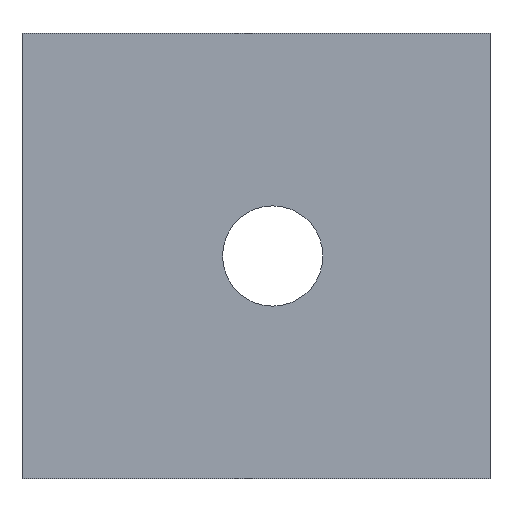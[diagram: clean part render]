
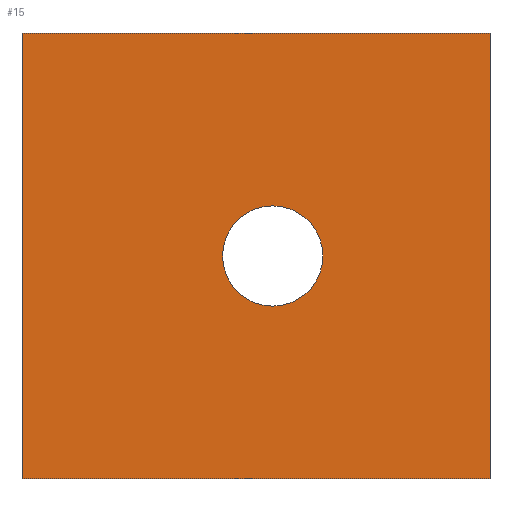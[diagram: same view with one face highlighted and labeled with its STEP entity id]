
A CAD part, front view. The second image highlights one B-rep face of the part: STEP entity #15.
In plain terms, the highlighted planar face has unit normal (0, -1, 0).
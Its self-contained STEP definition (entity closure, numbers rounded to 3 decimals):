
#15 = ADVANCED_FACE ( 'NONE', ( #372, #148 ), #526, .F. ) ;
#37 = DIRECTION ( 'NONE',  ( 0., 0., -1. ) ) ;
#50 = EDGE_LOOP ( 'NONE', ( #203, #580, #567, #287 ) ) ;
#76 = EDGE_CURVE ( 'NONE', #470, #146, #142, .T. ) ;
#81 = CARTESIAN_POINT ( 'NONE',  ( 0., 0., 20. ) ) ;
#97 = VECTOR ( 'NONE', #307, 1000. ) ;
#100 = VERTEX_POINT ( 'NONE', #410 ) ;
#101 = EDGE_CURVE ( 'NONE', #100, #146, #297, .T. ) ;
#127 = CARTESIAN_POINT ( 'NONE',  ( 42., 0., 20. ) ) ;
#142 = LINE ( 'NONE', #590, #97 ) ;
#146 = VERTEX_POINT ( 'NONE', #265 ) ;
#148 = FACE_BOUND ( 'NONE', #423, .T. ) ;
#158 = CIRCLE ( 'NONE', #495, 4.5 ) ;
#173 = VECTOR ( 'NONE', #353, 1000. ) ;
#175 = LINE ( 'NONE', #311, #173 ) ;
#187 = CARTESIAN_POINT ( 'NONE',  ( 22.5, 0., 0. ) ) ;
#203 = ORIENTED_EDGE ( 'NONE', *, *, #440, .T. ) ;
#204 = CARTESIAN_POINT ( 'NONE',  ( 0., 0., -20. ) ) ;
#246 = ORIENTED_EDGE ( 'NONE', *, *, #550, .F. ) ;
#254 = EDGE_CURVE ( 'NONE', #527, #100, #175, .T. ) ;
#265 = CARTESIAN_POINT ( 'NONE',  ( 42., 0., -20. ) ) ;
#283 = CARTESIAN_POINT ( 'NONE',  ( 27., 0., 0. ) ) ;
#287 = ORIENTED_EDGE ( 'NONE', *, *, #254, .F. ) ;
#297 = LINE ( 'NONE', #127, #425 ) ;
#307 = DIRECTION ( 'NONE',  ( 1., 0., 0. ) ) ;
#311 = CARTESIAN_POINT ( 'NONE',  ( 42., 0., 20. ) ) ;
#333 = VECTOR ( 'NONE', #576, 1000. ) ;
#342 = CARTESIAN_POINT ( 'NONE',  ( 0., 0., 20. ) ) ;
#344 = VERTEX_POINT ( 'NONE', #283 ) ;
#353 = DIRECTION ( 'NONE',  ( 1., 0., 0. ) ) ;
#372 = FACE_OUTER_BOUND ( 'NONE', #50, .T. ) ;
#410 = CARTESIAN_POINT ( 'NONE',  ( 42., 0., 20. ) ) ;
#423 = EDGE_LOOP ( 'NONE', ( #246 ) ) ;
#425 = VECTOR ( 'NONE', #37, 1000. ) ;
#431 = DIRECTION ( 'NONE',  ( 0., 1., 0. ) ) ;
#433 = DIRECTION ( 'NONE',  ( 1., 0., 0. ) ) ;
#440 = EDGE_CURVE ( 'NONE', #527, #470, #444, .T. ) ;
#444 = LINE ( 'NONE', #81, #333 ) ;
#470 = VERTEX_POINT ( 'NONE', #204 ) ;
#495 = AXIS2_PLACEMENT_3D ( 'NONE', #187, #560, #433 ) ;
#519 = CARTESIAN_POINT ( 'NONE',  ( 42., 0., 20. ) ) ;
#526 = PLANE ( 'NONE',  #564 ) ;
#527 = VERTEX_POINT ( 'NONE', #342 ) ;
#550 = EDGE_CURVE ( 'NONE', #344, #344, #158, .T. ) ;
#560 = DIRECTION ( 'NONE',  ( 0., -1., 0. ) ) ;
#562 = DIRECTION ( 'NONE',  ( -1., 0., 0. ) ) ;
#564 = AXIS2_PLACEMENT_3D ( 'NONE', #519, #431, #562 ) ;
#567 = ORIENTED_EDGE ( 'NONE', *, *, #101, .F. ) ;
#576 = DIRECTION ( 'NONE',  ( 0., 0., -1. ) ) ;
#580 = ORIENTED_EDGE ( 'NONE', *, *, #76, .T. ) ;
#590 = CARTESIAN_POINT ( 'NONE',  ( 42., 0., -20. ) ) ;
